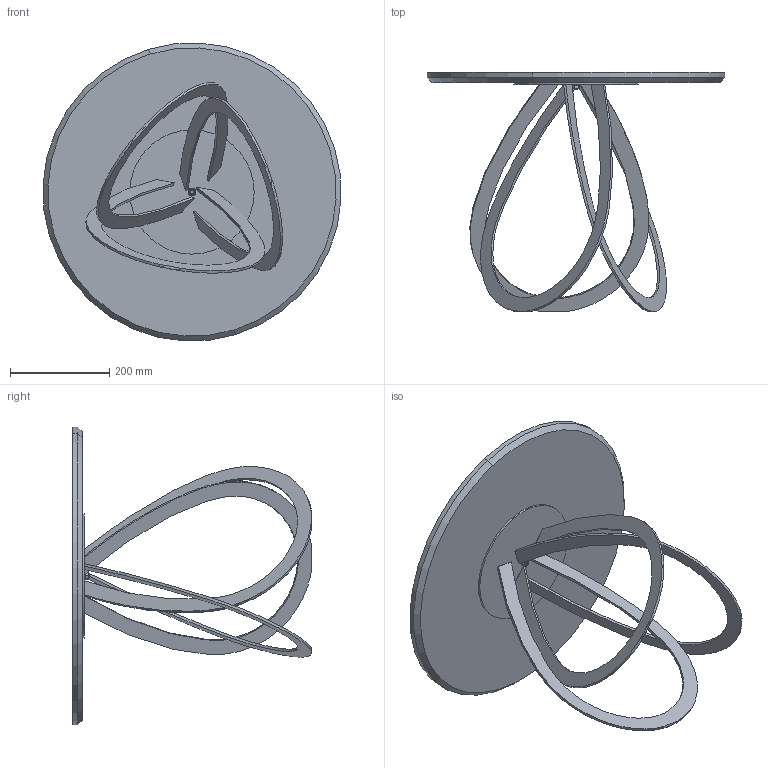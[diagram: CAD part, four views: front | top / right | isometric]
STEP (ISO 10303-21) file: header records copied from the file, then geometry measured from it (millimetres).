
FILE_DESCRIPTION (( 'STEP AP203' ), '1' );
FILE_NAME ('FL01M_Febe Low_d60xh48_Marble.STEP', '2024-08-06T08:56:06', ( '' ), ( '' ), 'SwSTEP 2.0', 'SolidWorks 2022', '' );
FILE_SCHEMA (( 'CONFIG_CONTROL_DESIGN' ));
Length unit declared in the file: millimetre
Products named in the file (9): FL01M_Febe Low_d60xh48_Marble; nut_M8_M8; M0X-00- D. piani marmo_D.600; FET00000048_01-00-FEBE DISCO METALLO SUPERIORE H.48cm_pos. gambe 500; GRANO M8_barra; FET000000XX-00-FEBE STRUTTURA BASE H.XXcm_FEBE 80; FET00000048_02-00-FEBE GAMBA PER H.48cm_gamba per febe 80; M0XMXX-00-Piani Rotondi in marmo_D.60; rondella M8_8X16
Assembly tree (10 placements, depth 3):
  FL01M_Febe Low_d60xh48_Marble
    M0XMXX-00-Piani Rotondi in marmo_D.60
      M0X-00- D. piani marmo_D.600
    FET000000XX-00-FEBE STRUTTURA BASE H.XXcm_FEBE 80
      FET00000048_02-00-FEBE GAMBA PER H.48cm_gamba per febe 80  x3
      FET00000048_01-00-FEBE DISCO METALLO SUPERIORE H.48cm_pos. gambe 500
    GRANO M8_barra
    nut_M8_M8
    rondella M8_8X16
Bounding box: 599.18 x 480.62 x 599.18 mm (x, y, z)
Volume: 6295033.6 mm3; surface area: 945613.5 mm2
Topology: 8 solids, 8 shells, 125 faces, 280 edges, 173 vertices
Faces by surface type: plane 49, cylinder 34, cone 22, bspline 12, torus 8
Entity records: 4321 total; most frequent: CARTESIAN_POINT 943, DIRECTION 536, ORIENTED_EDGE 464, EDGE_CURVE 232, AXIS2_PLACEMENT_3D 216, VERTEX_POINT 147, EDGE_LOOP 123, ADVANCED_FACE 107
